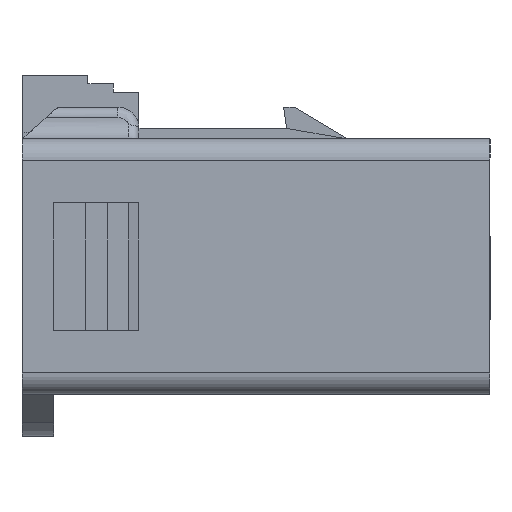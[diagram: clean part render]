
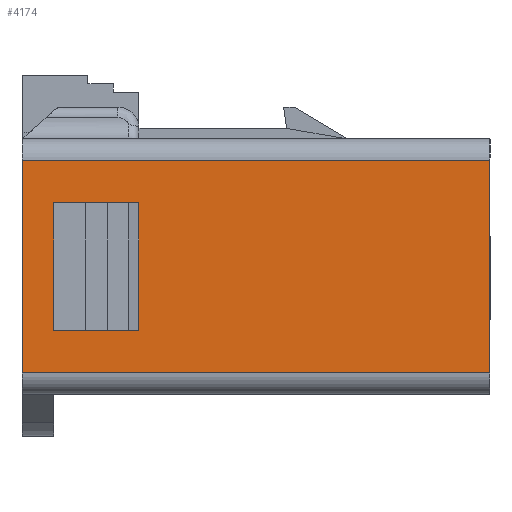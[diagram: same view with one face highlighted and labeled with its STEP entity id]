
A CAD part, front view. The second image highlights one B-rep face of the part: STEP entity #4174.
In plain terms, the highlighted planar face has unit normal (0, -1, 0).
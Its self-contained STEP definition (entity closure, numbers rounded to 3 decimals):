
#399=CARTESIAN_POINT('Vertex',(-20.5,-2.55,-6.2)) ;
#415=CARTESIAN_POINT('Vertex',(-20.5,-2.55,-0.2)) ;
#418=CARTESIAN_POINT('Line Origine',(-20.5,-2.55,-3.2)) ;
#441=CARTESIAN_POINT('Vertex',(-16.5,-2.55,-6.2)) ;
#444=CARTESIAN_POINT('Line Origine',(-16.5,-2.55,-3.2)) ;
#448=CARTESIAN_POINT('Vertex',(-16.5,-2.55,-0.2)) ;
#589=CARTESIAN_POINT('Line Origine',(-18.5,-2.55,-6.2)) ;
#610=CARTESIAN_POINT('Line Origine',(-18.5,-2.55,-0.2)) ;
#4116=CARTESIAN_POINT('Vertex',(-22.,-2.55,1.8)) ;
#4119=CARTESIAN_POINT('Line Origine',(-11.,-2.55,1.8)) ;
#4123=CARTESIAN_POINT('Vertex',(0.,-2.55,1.8)) ;
#4138=CARTESIAN_POINT('Axis2P3D Location',(0.,-2.55,2.8)) ;
#4143=CARTESIAN_POINT('Line Origine',(-11.,-2.55,-8.2)) ;
#4147=CARTESIAN_POINT('Vertex',(0.,-2.55,-8.2)) ;
#4149=CARTESIAN_POINT('Vertex',(-22.,-2.55,-8.2)) ;
#4152=CARTESIAN_POINT('Line Origine',(0.,-2.55,-3.2)) ;
#4157=CARTESIAN_POINT('Line Origine',(-22.,-2.55,-3.2)) ;
#419=DIRECTION('Vector Direction',(0.,0.,1.)) ;
#445=DIRECTION('Vector Direction',(0.,0.,1.)) ;
#590=DIRECTION('Vector Direction',(-1.,0.,0.)) ;
#611=DIRECTION('Vector Direction',(-1.,0.,0.)) ;
#4120=DIRECTION('Vector Direction',(-1.,0.,0.)) ;
#4139=DIRECTION('Axis2P3D Direction',(0.,1.,0.)) ;
#4140=DIRECTION('Axis2P3D XDirection',(0.,0.,-1.)) ;
#4144=DIRECTION('Vector Direction',(-1.,0.,0.)) ;
#4153=DIRECTION('Vector Direction',(0.,0.,-1.)) ;
#4158=DIRECTION('Vector Direction',(0.,0.,-1.)) ;
#4141=AXIS2_PLACEMENT_3D('Plane Axis2P3D',#4138,#4139,#4140) ;
#4163=ORIENTED_EDGE('',*,*,#4151,.F.) ;
#4164=ORIENTED_EDGE('',*,*,#4156,.F.) ;
#4165=ORIENTED_EDGE('',*,*,#4125,.T.) ;
#4166=ORIENTED_EDGE('',*,*,#4161,.T.) ;
#4169=ORIENTED_EDGE('',*,*,#614,.F.) ;
#4170=ORIENTED_EDGE('',*,*,#450,.F.) ;
#4171=ORIENTED_EDGE('',*,*,#593,.T.) ;
#4172=ORIENTED_EDGE('',*,*,#422,.T.) ;
#4173=FACE_BOUND('',#4168,.T.) ;
#420=VECTOR('Line Direction',#419,1.) ;
#446=VECTOR('Line Direction',#445,1.) ;
#591=VECTOR('Line Direction',#590,1.) ;
#612=VECTOR('Line Direction',#611,1.) ;
#4121=VECTOR('Line Direction',#4120,1.) ;
#4145=VECTOR('Line Direction',#4144,1.) ;
#4154=VECTOR('Line Direction',#4153,1.) ;
#4159=VECTOR('Line Direction',#4158,1.) ;
#4174=ADVANCED_FACE('\X2\FF8AFF9FFF70FF82\X0\ \X2\FF8EFF9EFF83FF9EFF68FF70\X0\',(#4167,#4173),#4142,.F.) ;
#422=EDGE_CURVE('',#400,#416,#421,.T.) ;
#450=EDGE_CURVE('',#442,#449,#447,.T.) ;
#593=EDGE_CURVE('',#442,#400,#592,.T.) ;
#614=EDGE_CURVE('',#449,#416,#613,.T.) ;
#4125=EDGE_CURVE('',#4124,#4117,#4122,.T.) ;
#4151=EDGE_CURVE('',#4148,#4150,#4146,.T.) ;
#4156=EDGE_CURVE('',#4124,#4148,#4155,.T.) ;
#4161=EDGE_CURVE('',#4117,#4150,#4160,.T.) ;
#4162=EDGE_LOOP('',(#4163,#4164,#4165,#4166)) ;
#4168=EDGE_LOOP('',(#4169,#4170,#4171,#4172)) ;
#4167=FACE_OUTER_BOUND('',#4162,.T.) ;
#421=LINE('Line',#418,#420) ;
#447=LINE('Line',#444,#446) ;
#592=LINE('Line',#589,#591) ;
#613=LINE('Line',#610,#612) ;
#4122=LINE('Line',#4119,#4121) ;
#4146=LINE('Line',#4143,#4145) ;
#4155=LINE('Line',#4152,#4154) ;
#4160=LINE('Line',#4157,#4159) ;
#4142=PLANE('',#4141) ;
#400=VERTEX_POINT('',#399) ;
#416=VERTEX_POINT('',#415) ;
#442=VERTEX_POINT('',#441) ;
#449=VERTEX_POINT('',#448) ;
#4117=VERTEX_POINT('',#4116) ;
#4124=VERTEX_POINT('',#4123) ;
#4148=VERTEX_POINT('',#4147) ;
#4150=VERTEX_POINT('',#4149) ;
